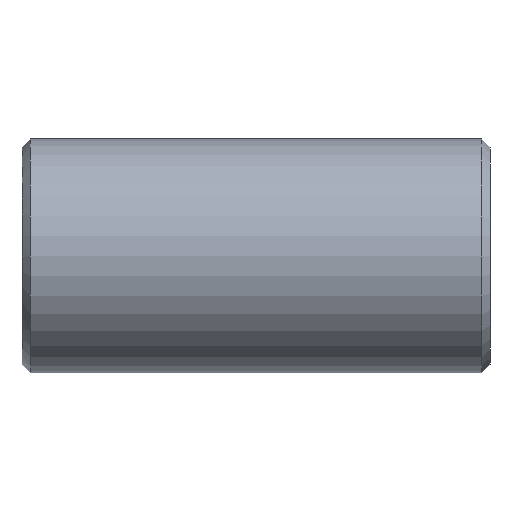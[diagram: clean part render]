
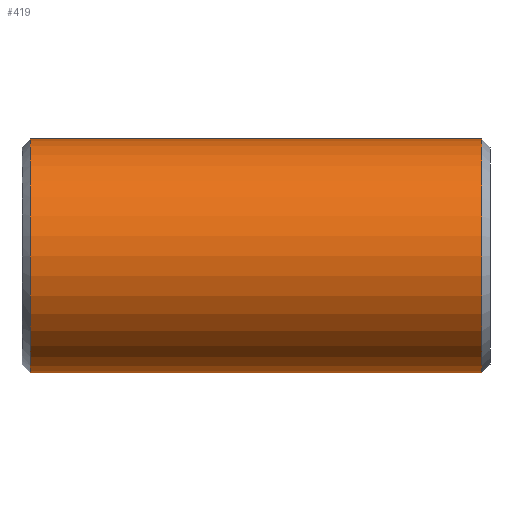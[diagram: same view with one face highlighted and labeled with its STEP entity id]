
A CAD part, front view. The second image highlights one B-rep face of the part: STEP entity #419.
In plain terms, the highlighted cylindrical face has radius 14 mm (diameter 28 mm), a partial arc.
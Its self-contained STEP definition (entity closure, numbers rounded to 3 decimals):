
#231=CARTESIAN_POINT('Vertex',(1.,0.,-14.)) ;
#238=CARTESIAN_POINT('Vertex',(1.,0.,14.)) ;
#267=CARTESIAN_POINT('Axis2P3D Location',(1.,0.,0.)) ;
#271=CARTESIAN_POINT('Vertex',(1.,-14.,0.)) ;
#274=CARTESIAN_POINT('Axis2P3D Location',(1.,0.,0.)) ;
#359=CARTESIAN_POINT('Line Origine',(56.,0.,14.)) ;
#363=CARTESIAN_POINT('Vertex',(55.,0.,14.)) ;
#377=CARTESIAN_POINT('Vertex',(55.,0.,-14.)) ;
#380=CARTESIAN_POINT('Line Origine',(56.,0.,-14.)) ;
#394=CARTESIAN_POINT('Axis2P3D Location',(56.,0.,0.)) ;
#399=CARTESIAN_POINT('Axis2P3D Location',(55.,0.,0.)) ;
#403=CARTESIAN_POINT('Vertex',(55.,-14.,0.)) ;
#406=CARTESIAN_POINT('Axis2P3D Location',(55.,0.,0.)) ;
#268=DIRECTION('Axis2P3D Direction',(1.,0.,-0.)) ;
#275=DIRECTION('Axis2P3D Direction',(1.,0.,-0.)) ;
#360=DIRECTION('Vector Direction',(-1.,0.,0.)) ;
#381=DIRECTION('Vector Direction',(-1.,0.,0.)) ;
#395=DIRECTION('Axis2P3D Direction',(-1.,-0.,-0.)) ;
#396=DIRECTION('Axis2P3D XDirection',(0.,0.,-1.)) ;
#400=DIRECTION('Axis2P3D Direction',(-1.,-0.,-0.)) ;
#407=DIRECTION('Axis2P3D Direction',(-1.,-0.,-0.)) ;
#269=AXIS2_PLACEMENT_3D('Circle Axis2P3D',#267,#268,$) ;
#276=AXIS2_PLACEMENT_3D('Circle Axis2P3D',#274,#275,$) ;
#397=AXIS2_PLACEMENT_3D('Cylinder Axis2P3D',#394,#395,#396) ;
#401=AXIS2_PLACEMENT_3D('Circle Axis2P3D',#399,#400,$) ;
#408=AXIS2_PLACEMENT_3D('Circle Axis2P3D',#406,#407,$) ;
#412=ORIENTED_EDGE('',*,*,#384,.T.) ;
#413=ORIENTED_EDGE('',*,*,#405,.F.) ;
#414=ORIENTED_EDGE('',*,*,#410,.F.) ;
#415=ORIENTED_EDGE('',*,*,#365,.T.) ;
#416=ORIENTED_EDGE('',*,*,#278,.T.) ;
#417=ORIENTED_EDGE('',*,*,#273,.T.) ;
#361=VECTOR('Line Direction',#360,1.) ;
#382=VECTOR('Line Direction',#381,1.) ;
#419=ADVANCED_FACE('352-20X56',(#418),#398,.T.) ;
#270=CIRCLE('generated circle',#269,14.) ;
#277=CIRCLE('generated circle',#276,14.) ;
#402=CIRCLE('generated circle',#401,14.) ;
#409=CIRCLE('generated circle',#408,14.) ;
#398=CYLINDRICAL_SURFACE('generated cylinder',#397,14.) ;
#273=EDGE_CURVE('',#272,#232,#270,.T.) ;
#278=EDGE_CURVE('',#239,#272,#277,.T.) ;
#365=EDGE_CURVE('',#364,#239,#362,.T.) ;
#384=EDGE_CURVE('',#232,#378,#383,.F.) ;
#405=EDGE_CURVE('',#404,#378,#402,.F.) ;
#410=EDGE_CURVE('',#364,#404,#409,.F.) ;
#411=EDGE_LOOP('',(#412,#413,#414,#415,#416,#417)) ;
#418=FACE_OUTER_BOUND('',#411,.T.) ;
#362=LINE('Line',#359,#361) ;
#383=LINE('Line',#380,#382) ;
#232=VERTEX_POINT('',#231) ;
#239=VERTEX_POINT('',#238) ;
#272=VERTEX_POINT('',#271) ;
#364=VERTEX_POINT('',#363) ;
#378=VERTEX_POINT('',#377) ;
#404=VERTEX_POINT('',#403) ;
